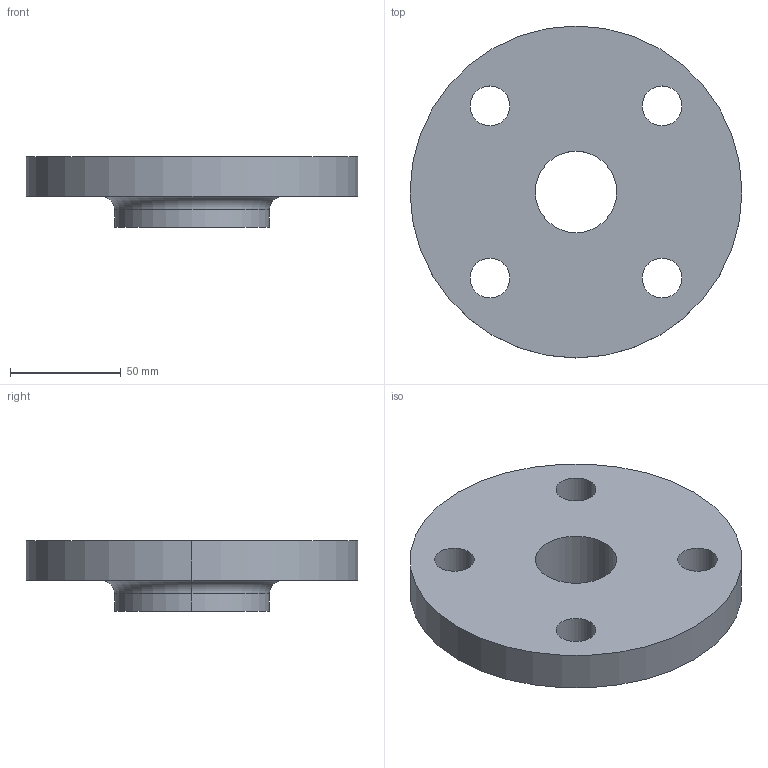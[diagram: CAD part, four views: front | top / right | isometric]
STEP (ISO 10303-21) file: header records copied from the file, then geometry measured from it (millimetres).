
FILE_DESCRIPTION (( 'STEP AP214' ), '1' );
FILE_NAME ('PN40 DN40 Type 13 - Type A Face.STEP', '2018-12-30T04:19:51', ( '' ), ( '' ), 'SwSTEP 2.0', 'SolidWorks 2019', '' );
FILE_SCHEMA (( 'AUTOMOTIVE_DESIGN' ));
Length unit declared in the file: millimetre
Products named in the file (1): PN40 DN40 Type 13 - Type A Face
Bounding box: 150 x 150 x 32 mm (x, y, z)
Volume: 321459.8 mm3; surface area: 49962.4 mm2
Topology: 1 solids, 1 shells, 19 faces, 46 edges, 30 vertices
Faces by surface type: cylinder 14, plane 3, torus 2
Entity records: 630 total; most frequent: DIRECTION 118, CARTESIAN_POINT 96, ORIENTED_EDGE 92, AXIS2_PLACEMENT_3D 52, EDGE_CURVE 46, CIRCLE 32, EDGE_LOOP 30, VERTEX_POINT 30
